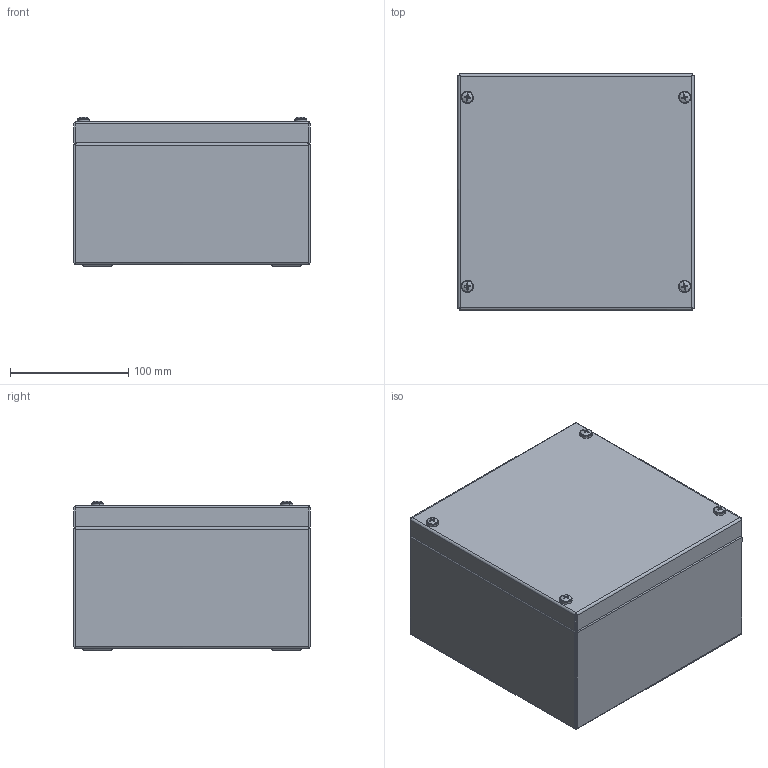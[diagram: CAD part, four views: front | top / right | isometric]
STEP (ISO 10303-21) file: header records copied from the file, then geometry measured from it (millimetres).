
FILE_DESCRIPTION (( 'STEP AP203' ), '1' );
FILE_NAME ('SS JB-200 x 200 x 121-ASSEMBLY.STEP', '2020-03-13T10:31:02', ( '' ), ( '' ), 'SwSTEP 2.0', 'SolidWorks 2018', '' );
FILE_SCHEMA (( 'CONFIG_CONTROL_DESIGN' ));
Length unit declared in the file: millimetre
Products named in the file (7): SS JB-200 x 200 x 121-BASE_200 X 200 X 121; Dinral Mounting Channel-200; SS JB-200 x 200 x 121-LID_200 x 200 x 121; M5 BLIND NUTSERT; SS JB-200 x 200 x 121-ASSEMBLY; PLASTIC INSERT FOR FABRICATED ENCLOSURE; M5X33 LID SCREW
Assembly tree (16 placements, depth 2):
  SS JB-200 x 200 x 121-ASSEMBLY
    SS JB-200 x 200 x 121-BASE_200 X 200 X 121
    Dinral Mounting Channel-200  x2
    SS JB-200 x 200 x 121-LID_200 x 200 x 121
    M5 BLIND NUTSERT  x4
    M5X33 LID SCREW  x4
    PLASTIC INSERT FOR FABRICATED ENCLOSURE  x4
Bounding box: 200 x 200 x 126.81 mm (x, y, z)
Volume: 258159.4 mm3; surface area: 419648.2 mm2
Topology: 16 solids, 16 shells, 723 faces, 1726 edges, 1068 vertices
Faces by surface type: cylinder 314, plane 265, cone 104, bspline 32, sphere 8
Entity records: 14975 total; most frequent: CARTESIAN_POINT 4880, ORIENTED_EDGE 1920, DIRECTION 1771, EDGE_CURVE 960, AXIS2_PLACEMENT_3D 606, VERTEX_POINT 578, LINE 559, VECTOR 559
